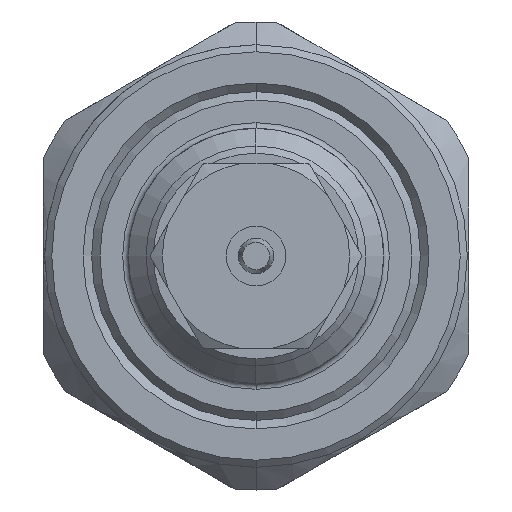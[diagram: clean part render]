
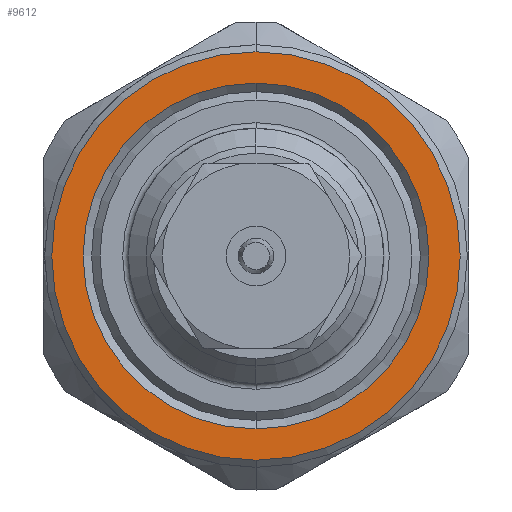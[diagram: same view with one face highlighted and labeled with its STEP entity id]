
A CAD part, left-side view. The second image highlights one B-rep face of the part: STEP entity #9612.
In plain terms, the highlighted planar face has unit normal (-1, 0, 0).
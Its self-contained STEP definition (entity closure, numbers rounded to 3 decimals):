
#119 = AXIS2_PLACEMENT_3D ( 'NONE', #8494, #3944, #9264 ) ;
#377 = AXIS2_PLACEMENT_3D ( 'NONE', #2704, #8031, #3464 ) ;
#571 = CARTESIAN_POINT ( 'NONE',  ( 0., 0., -14.4 ) ) ;
#980 = EDGE_LOOP ( 'NONE', ( #3387, #7559 ) ) ;
#1313 = CARTESIAN_POINT ( 'NONE',  ( 0., 0., 0. ) ) ;
#2068 = DIRECTION ( 'NONE',  ( 0., 0., -1. ) ) ;
#2557 = VERTEX_POINT ( 'NONE', #4116 ) ;
#2704 = CARTESIAN_POINT ( 'NONE',  ( 0., 0., 0. ) ) ;
#2909 = AXIS2_PLACEMENT_3D ( 'NONE', #8550, #4010, #9313 ) ;
#3076 = FACE_BOUND ( 'NONE', #4832, .T. ) ;
#3387 = ORIENTED_EDGE ( 'NONE', *, *, #5769, .T. ) ;
#3464 = DIRECTION ( 'NONE',  ( 0., 0., 1. ) ) ;
#3934 = DIRECTION ( 'NONE',  ( -1., 0., 0. ) ) ;
#3944 = DIRECTION ( 'NONE',  ( 1., 0., 0. ) ) ;
#4010 = DIRECTION ( 'NONE',  ( -1., 0., 0. ) ) ;
#4116 = CARTESIAN_POINT ( 'NONE',  ( 0., 0., 14.4 ) ) ;
#4568 = PLANE ( 'NONE',  #119 ) ;
#4832 = EDGE_LOOP ( 'NONE', ( #7240, #5220 ) ) ;
#4862 = FACE_OUTER_BOUND ( 'NONE', #980, .T. ) ;
#4869 = AXIS2_PLACEMENT_3D ( 'NONE', #8486, #3934, #9250 ) ;
#4896 = CIRCLE ( 'NONE', #4869, 14.4 ) ;
#4993 = VERTEX_POINT ( 'NONE', #6887 ) ;
#5132 = CIRCLE ( 'NONE', #8839, 14.4 ) ;
#5220 = ORIENTED_EDGE ( 'NONE', *, *, #6457, .F. ) ;
#5582 = VERTEX_POINT ( 'NONE', #571 ) ;
#5769 = EDGE_CURVE ( 'NONE', #5582, #2557, #4896, .T. ) ;
#6457 = EDGE_CURVE ( 'NONE', #8973, #4993, #8135, .T. ) ;
#6503 = CIRCLE ( 'NONE', #377, 12.19 ) ;
#6620 = DIRECTION ( 'NONE',  ( -1., 0., 0. ) ) ;
#6887 = CARTESIAN_POINT ( 'NONE',  ( 0., 0., 12.19 ) ) ;
#7240 = ORIENTED_EDGE ( 'NONE', *, *, #7883, .F. ) ;
#7559 = ORIENTED_EDGE ( 'NONE', *, *, #9499, .T. ) ;
#7883 = EDGE_CURVE ( 'NONE', #4993, #8973, #6503, .T. ) ;
#8031 = DIRECTION ( 'NONE',  ( -1., 0., 0. ) ) ;
#8135 = CIRCLE ( 'NONE', #2909, 12.19 ) ;
#8486 = CARTESIAN_POINT ( 'NONE',  ( 0., 0., 0. ) ) ;
#8494 = CARTESIAN_POINT ( 'NONE',  ( 0., 12.19, 0. ) ) ;
#8550 = CARTESIAN_POINT ( 'NONE',  ( 0., 0., 0. ) ) ;
#8839 = AXIS2_PLACEMENT_3D ( 'NONE', #1313, #6620, #2068 ) ;
#8973 = VERTEX_POINT ( 'NONE', #9723 ) ;
#9250 = DIRECTION ( 'NONE',  ( 0., 0., -1. ) ) ;
#9264 = DIRECTION ( 'NONE',  ( 0., 0., -1. ) ) ;
#9313 = DIRECTION ( 'NONE',  ( 0., 0., 1. ) ) ;
#9499 = EDGE_CURVE ( 'NONE', #2557, #5582, #5132, .T. ) ;
#9612 = ADVANCED_FACE ( 'NONE', ( #4862, #3076 ), #4568, .F. ) ;
#9723 = CARTESIAN_POINT ( 'NONE',  ( 0., 0., -12.19 ) ) ;
